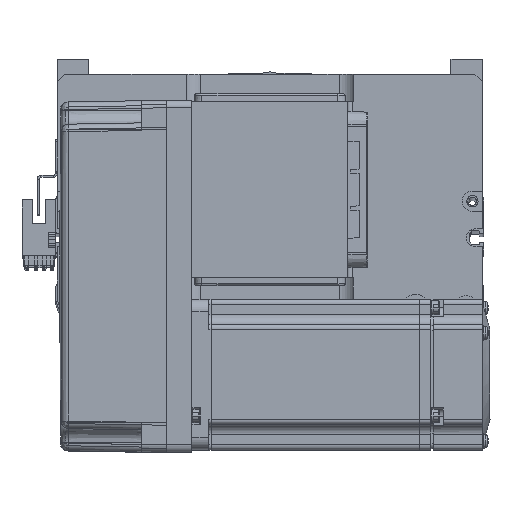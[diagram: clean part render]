
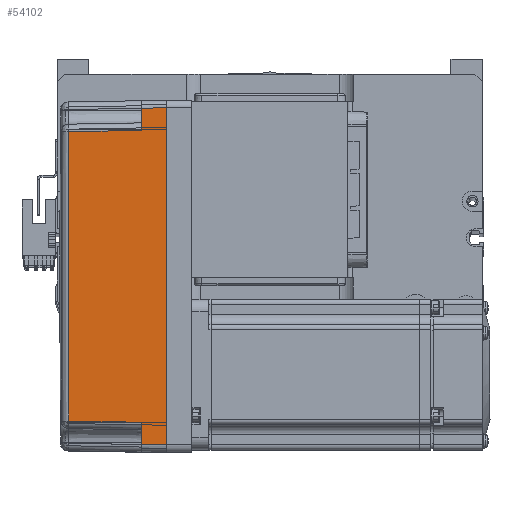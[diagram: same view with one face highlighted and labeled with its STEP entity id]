
A CAD part, top view. The second image highlights one B-rep face of the part: STEP entity #54102.
In plain terms, the highlighted planar face has unit normal (-0.018, 0, 1) as drawn and (0, -1, 0.017) by its records, which use the part's own axes.
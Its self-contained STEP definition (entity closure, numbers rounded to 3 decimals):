
#811 = CARTESIAN_POINT ( 'NONE',  ( -66.959, -35.958, 2.39 ) ) ;
#1938 = VERTEX_POINT ( 'NONE', #25397 ) ;
#2224 = CARTESIAN_POINT ( 'NONE',  ( -57.495, -35.32, 38.985 ) ) ;
#2848 = DIRECTION ( 'NONE',  ( -0.017, -0.017, -1. ) ) ;
#4012 = CARTESIAN_POINT ( 'NONE',  ( 70., -35.825, 10. ) ) ;
#6057 = EDGE_CURVE ( 'NONE', #28735, #55438, #47719, .T. ) ;
#6067 = ORIENTED_EDGE ( 'NONE', *, *, #13386, .T. ) ;
#7011 = VECTOR ( 'NONE', #20156, 1000. ) ;
#8341 = CARTESIAN_POINT ( 'NONE',  ( 70., -36., 0. ) ) ;
#9178 = VERTEX_POINT ( 'NONE', #48398 ) ;
#9308 = EDGE_LOOP ( 'NONE', ( #16057, #10677, #57385, #29984, #6067, #21787, #26641, #17985 ) ) ;
#9988 = EDGE_CURVE ( 'NONE', #28735, #1938, #44146, .T. ) ;
#10677 = ORIENTED_EDGE ( 'NONE', *, *, #61057, .T. ) ;
#11208 = VERTEX_POINT ( 'NONE', #57490 ) ;
#12347 = EDGE_CURVE ( 'NONE', #9178, #11208, #42693, .T. ) ;
#12485 = DIRECTION ( 'NONE',  ( -1., 0., 0. ) ) ;
#12866 = VECTOR ( 'NONE', #27761, 1000. ) ;
#13386 = EDGE_CURVE ( 'NONE', #11208, #22811, #52870, .T. ) ;
#13557 = CARTESIAN_POINT ( 'NONE',  ( 0., -36., 0. ) ) ;
#15844 = CARTESIAN_POINT ( 'NONE',  ( 19.165, -35.316, 39.181 ) ) ;
#16057 = ORIENTED_EDGE ( 'NONE', *, *, #9988, .T. ) ;
#17985 = ORIENTED_EDGE ( 'NONE', *, *, #6057, .F. ) ;
#18318 = DIRECTION ( 'NONE',  ( -0.017, 0.017, 1. ) ) ;
#20156 = DIRECTION ( 'NONE',  ( -1., 0., 0. ) ) ;
#21113 = CARTESIAN_POINT ( 'NONE',  ( -57.495, -35.32, 38.985 ) ) ;
#21787 = ORIENTED_EDGE ( 'NONE', *, *, #37683, .T. ) ;
#22156 = DIRECTION ( 'NONE',  ( -0.017, 0.017, 1. ) ) ;
#22479 = DIRECTION ( 'NONE',  ( 0., -0.017, -1. ) ) ;
#22811 = VERTEX_POINT ( 'NONE', #38875 ) ;
#23101 = FACE_OUTER_BOUND ( 'NONE', #9308, .T. ) ;
#23923 = CARTESIAN_POINT ( 'NONE',  ( -66.826, -35.825, 10. ) ) ;
#25397 = CARTESIAN_POINT ( 'NONE',  ( 66.826, -35.825, 10. ) ) ;
#25936 = LINE ( 'NONE', #811, #37198 ) ;
#26641 = ORIENTED_EDGE ( 'NONE', *, *, #36017, .F. ) ;
#27101 = LINE ( 'NONE', #4012, #12866 ) ;
#27299 = VECTOR ( 'NONE', #22156, 1000. ) ;
#27761 = DIRECTION ( 'NONE',  ( -1., 0., 0. ) ) ;
#28735 = VERTEX_POINT ( 'NONE', #35336 ) ;
#29849 = EDGE_CURVE ( 'NONE', #53080, #9178, #30295, .T. ) ;
#29984 = ORIENTED_EDGE ( 'NONE', *, *, #12347, .T. ) ;
#30295 = LINE ( 'NONE', #60741, #27299 ) ;
#30830 = CARTESIAN_POINT ( 'NONE',  ( 58., -35.825, 10. ) ) ;
#31352 = CARTESIAN_POINT ( 'NONE',  ( -19.165, -35.316, 39.181 ) ) ;
#32608 = VERTEX_POINT ( 'NONE', #23923 ) ;
#34054 = VECTOR ( 'NONE', #2848, 1000. ) ;
#34511 = CARTESIAN_POINT ( 'NONE',  ( 57.495, -35.32, 38.985 ) ) ;
#34573 = CARTESIAN_POINT ( 'NONE',  ( 70., -35.825, 10. ) ) ;
#35336 = CARTESIAN_POINT ( 'NONE',  ( 67., -36., 0. ) ) ;
#36017 = EDGE_CURVE ( 'NONE', #55438, #32608, #25936, .T. ) ;
#37198 = VECTOR ( 'NONE', #39255, 1000. ) ;
#37683 = EDGE_CURVE ( 'NONE', #22811, #32608, #27101, .T. ) ;
#38875 = CARTESIAN_POINT ( 'NONE',  ( -58., -35.825, 10. ) ) ;
#39255 = DIRECTION ( 'NONE',  ( 0.017, 0.017, 1. ) ) ;
#41542 = CARTESIAN_POINT ( 'NONE',  ( -67., -36., 0. ) ) ;
#41966 = PLANE ( 'NONE',  #54917 ) ;
#42693 = B_SPLINE_CURVE_WITH_KNOTS ( 'NONE', 3,
 ( #34511, #15844, #31352, #21113 ),
 .UNSPECIFIED., .F., .F.,
 ( 4, 4 ),
 ( 0., 1. ),
 .UNSPECIFIED. ) ;
#44146 = LINE ( 'NONE', #46457, #55434 ) ;
#46457 = CARTESIAN_POINT ( 'NONE',  ( 67., -36., 0. ) ) ;
#47719 = LINE ( 'NONE', #13557, #60481 ) ;
#48398 = CARTESIAN_POINT ( 'NONE',  ( 57.495, -35.32, 38.985 ) ) ;
#52870 = LINE ( 'NONE', #2224, #34054 ) ;
#53080 = VERTEX_POINT ( 'NONE', #30830 ) ;
#54102 = ADVANCED_FACE ( 'NONE', ( #23101 ), #41966, .T. ) ;
#54917 = AXIS2_PLACEMENT_3D ( 'NONE', #8341, #56641, #22479 ) ;
#55434 = VECTOR ( 'NONE', #18318, 1000. ) ;
#55438 = VERTEX_POINT ( 'NONE', #41542 ) ;
#56641 = DIRECTION ( 'NONE',  ( 0., -1., 0.017 ) ) ;
#57385 = ORIENTED_EDGE ( 'NONE', *, *, #29849, .T. ) ;
#57490 = CARTESIAN_POINT ( 'NONE',  ( -57.495, -35.32, 38.985 ) ) ;
#58114 = LINE ( 'NONE', #34573, #7011 ) ;
#60481 = VECTOR ( 'NONE', #12485, 1000. ) ;
#60741 = CARTESIAN_POINT ( 'NONE',  ( 58., -35.825, 10. ) ) ;
#61057 = EDGE_CURVE ( 'NONE', #1938, #53080, #58114, .T. ) ;
